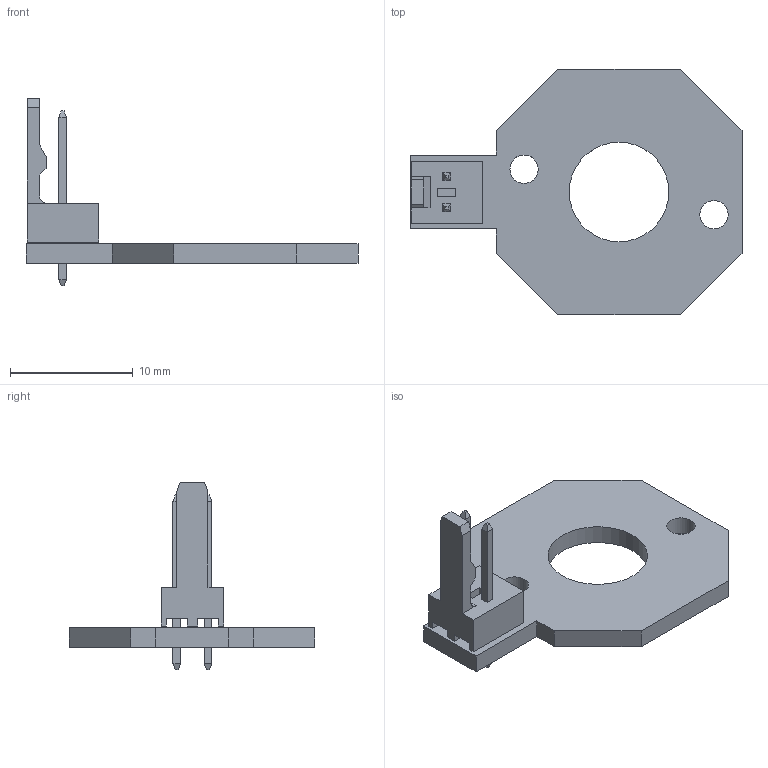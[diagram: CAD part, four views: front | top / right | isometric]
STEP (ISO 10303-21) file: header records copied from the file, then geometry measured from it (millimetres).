
FILE_DESCRIPTION(/* description */ (''),/* implementation_level */ '2;1');
FILE_NAME(/* name */ 'C:/Users/priba/Documents/Temp/Export/mrm-20d v1.step',/* time_stamp */ '2019-09-09T12:18:16+02:00',/* author */ (''),/* organization */ (''),/* preprocessor_version */ 'ST-DEVELOPER v18',/* originating_system */ 'Autodesk Translation Framework v8.6.0.1094',/* authorisation */ '');
FILE_SCHEMA (('AUTOMOTIVE_DESIGN { 1 0 10303 214 3 1 1 }'));
Length unit declared in the file: millimetre
Products named in the file (5): mrm-20d; PCB Component; Board; MOLEX_22-27-2021; MOTOR_20D
Assembly tree (4 placements, depth 3):
  mrm-20d
    PCB Component
      Board
      MOLEX_22-27-2021
      MOTOR_20D
Bounding box: 27 x 20 x 15.26 mm (x, y, z)
Volume: 629.4 mm3; surface area: 1132 mm2
Topology: 2 solids, 2 shells, 84 faces, 212 edges, 136 vertices
Faces by surface type: plane 78, cylinder 6
Full cylindrical faces by diameter (mm): 1.11 x2, 2.3 x2, 8.1 x1
Entity records: 2645 total; most frequent: CARTESIAN_POINT 441, ORIENTED_EDGE 424, DIRECTION 410, EDGE_CURVE 212, LINE 200, VECTOR 200, VERTEX_POINT 136, AXIS2_PLACEMENT_3D 105
